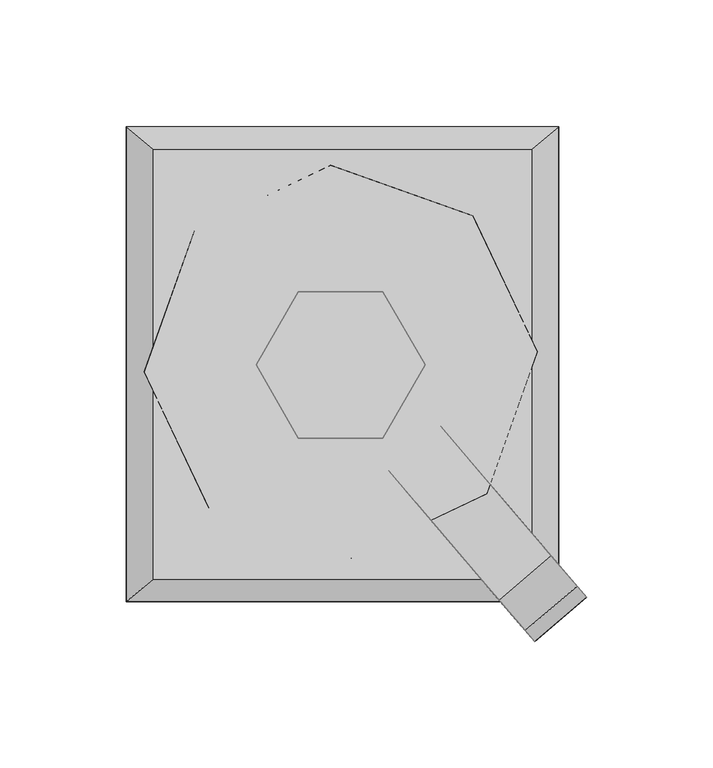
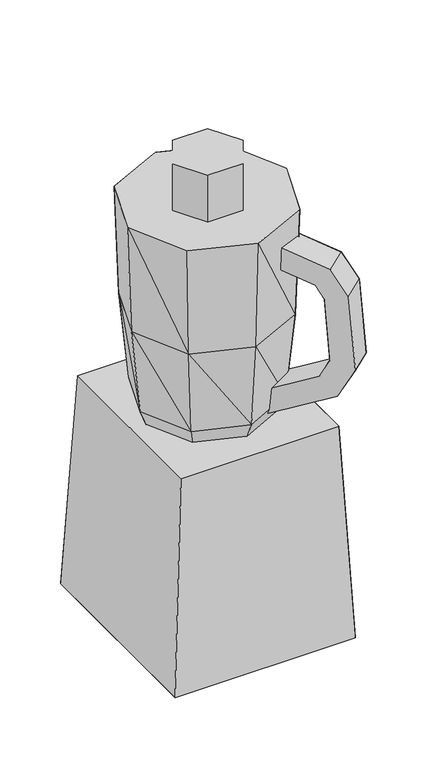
"""IFC4 building model written with IfcOpenShell, lengths in millimetres: geographic element geometry, Enscape AssetDefinition - Kitchen Appliance 005 Blender : Enscape AssetDefinition - Kitchen Appliance 005 Blender."""

from ifc_helpers import new_model, si_unit, origin, place, context, project, spatial, triangles, source, transform, mapped, element, save


def geographic_element_02dd20bf(model_context):
    return source(origin(), model_context, "Body", "Tessellation", [
        triangles([(-85.5189988, 93.9949985, 0.0), (85.5189988, -93.9949985, 0.0), (74.8559959, -85.0679998, 209.9999907), (-85.5189988, -93.9949985, 0.0), (-74.8559959, -85.0679998, 209.9999907), (-74.8559959, 85.0679998, 209.9999907), (74.8559959, 85.0679998, 209.9999907), (85.5189988, 93.9949985, 0.0), (-52.8310004, -56.9779992, 413.4529973), (-74.6100035, -3.1640002, 307.6040076), (3.316, -73.1229985, 307.6040076), (-50.1359977, -54.2830011, 307.6040076), (-44.3519985, -48.4989973, 224.4640061), (3.316, -76.9340032, 413.4529973), (-40.3750019, -44.0090007, 209.2240025), (3.316, -64.9430018, 224.4640061), (48.6510002, -42.8639988, 224.4640061), (2.9529998, -58.955999, 209.2240025), (65.0950001, 4.8039997, 224.4640061), (44.1599998, -38.8870023, 209.2240025), (57.1300021, -51.3439999, 413.4529973), (54.4340003, -48.6479981, 307.6040076), (43.0160017, 50.1380007, 224.4640061), (59.1080019, 4.441, 209.2240025), (73.2740022, 4.8039997, 307.6040076), (48.800001, 55.9219999, 307.6040076), (77.0860015, 4.8039997, 413.4529973), (51.4949991, 58.616998, 413.4529973), (-4.6519999, 74.7620018, 307.6040076), (-58.4659989, 52.9829987, 413.4529973), (-4.6519999, 78.5740012, 413.4529973), (-55.769997, 50.2880006, 307.6040076), (-78.4220028, -3.1640002, 413.4529973), (-66.4310014, -3.1640002, 224.4640061), (-4.6519999, 66.5829998, 224.4640061), (-4.2889997, 60.5949978, 209.2240025), (-49.9860023, 44.5040014, 224.4640061), (-45.4960011, 40.5270003, 209.2240025), (-60.4429994, -2.8019998, 209.2240025), (39.0390006, 45.6479995, 209.2240025), (32.6679983, -0.324, 412.3770092), (15.9750003, 28.5880011, 412.3770092), (32.6679983, -0.324, 460.0090219), (-17.4109989, 28.5880011, 460.0090219), (15.9750003, 28.5880011, 460.0090219), (-17.4109989, -29.2370008, 412.3770092), (15.9750003, -29.2370008, 412.3770092), (15.9750003, -29.2370008, 460.0090219), (-34.1040003, -0.324, 412.3770092), (-34.1040003, -0.324, 460.0090219), (-17.4109989, -29.2370008, 460.0090219), (-17.4109989, 28.5880011, 412.3770092), (32.9179989, -59.3290004, 389.0279984), (62.0650025, -93.4559961, 376.5139729), (53.4489995, -41.7939969, 389.0279984), (73.9440013, -65.7899977, 357.9700104), (82.595994, -75.9209972, 376.5139729), (58.703003, -89.5189999, 345.9809893), (53.4130006, -83.3250011, 357.9700104), (82.3670018, -75.6520047, 285.1180073), (79.233999, -71.984001, 345.9809893), (49.708998, -37.4150014, 368.3750075), (29.1779996, -54.949998, 368.3750075), (96.5669981, -92.2780066, 280.6290008), (72.2929983, -105.431001, 353.3350099), (76.0359975, -109.813001, 280.6290008), (61.8360012, -93.1879983, 285.1180073), (86.5970035, -80.605, 251.4350161), (66.0659983, -98.1400035, 251.4350161), (24.7209997, -49.7310034, 218.3439945), (45.251998, -32.1959999, 218.3439945), (38.828998, -24.676998, 237.3679968), (92.8239944, -87.8959976, 353.3350099), (55.772, -86.0870055, 267.360988), (76.3030006, -68.5520021, 267.360988), (18.299, -42.2119992, 237.3679968)], [[54, 53, 63], [74, 76, 70], [75, 72, 76], [76, 74, 75], [60, 75, 74], [75, 60, 64], [73, 64, 60], [68, 71, 72], [72, 75, 68], [64, 68, 75], [70, 69, 74], [69, 70, 71], [71, 68, 69], [67, 74, 69], [74, 67, 60], [69, 66, 67], [66, 69, 68], [68, 64, 66], [65, 66, 64], [64, 73, 65], [54, 65, 73], [65, 54, 59], [63, 59, 54], [59, 63, 62], [58, 67, 66], [66, 65, 58], [59, 58, 65], [61, 60, 67], [67, 58, 61], [60, 61, 73], [56, 61, 58], [58, 59, 56], [62, 56, 59], [56, 62, 55], [57, 73, 61], [61, 56, 57], [73, 57, 54], [55, 57, 56], [53, 54, 57], [57, 55, 53], [52, 49, 50], [50, 44, 52], [44, 50, 51], [51, 50, 49], [49, 46, 51], [48, 51, 46], [46, 47, 48], [48, 43, 51], [43, 44, 51], [43, 48, 47], [43, 45, 44], [44, 45, 42], [42, 52, 44], [47, 41, 43], [45, 43, 41], [41, 42, 45], [24, 40, 23], [39, 15, 13], [38, 39, 34], [13, 34, 39], [10, 34, 13], [34, 37, 38], [36, 38, 37], [37, 35, 36], [40, 36, 35], [35, 23, 40], [29, 35, 37], [32, 37, 34], [34, 10, 32], [37, 32, 29], [30, 32, 10], [10, 33, 30], [31, 30, 33], [31, 29, 32], [32, 30, 31], [29, 31, 28], [26, 23, 35], [35, 29, 26], [28, 26, 29], [14, 27, 33], [27, 31, 33], [27, 28, 31], [26, 28, 27], [14, 21, 27], [23, 26, 25], [27, 25, 26], [25, 27, 21], [23, 19, 24], [20, 24, 19], [25, 19, 23], [19, 25, 22], [21, 22, 25], [22, 21, 14], [19, 17, 20], [18, 20, 17], [22, 17, 19], [17, 16, 18], [15, 18, 16], [16, 13, 15], [11, 16, 17], [17, 22, 11], [14, 11, 22], [9, 14, 33], [11, 14, 9], [12, 13, 16], [16, 11, 12], [9, 12, 11], [13, 12, 10], [33, 10, 12], [12, 9, 33], [7, 6, 5], [5, 3, 7], [7, 3, 2], [6, 7, 8], [2, 8, 7], [5, 6, 1], [8, 1, 6], [1, 4, 5], [3, 5, 4], [4, 2, 3], [8, 2, 4], [4, 1, 8]], closed=False),
    ])


if __name__ == "__main__":
    model = new_model("IFC4")
    model_context = context("Model", 3, world=origin())
    ifc_project = project(units=[si_unit("LENGTHUNIT", "METRE", prefix="MILLI")], contexts=[model_context])
    site = spatial("IfcSite", under=ifc_project)
    building = spatial("IfcBuilding", under=site)
    placement = place(None, origin())
    geographic_element_shape = geographic_element_02dd20bf(model_context)
    element("IfcGeographicElement", 1, ObjectType="Enscape AssetDefinition - Kitchen Appliance 005 Blender : Enscape AssetDefinition - Kitchen Appliance 005 Blender", at=placement, inside=building, context=model_context, shape_type="MappedRepresentation", body=[
        mapped(geographic_element_shape, transform((0.0, 0.0, 0.0), x_axis=(1.0, 0.0, 0.0), y_axis=(0.0, 1.0, 0.0), z_axis=(0.0, 0.0, 1.0))),
    ])
    save(model, "model.ifc")
